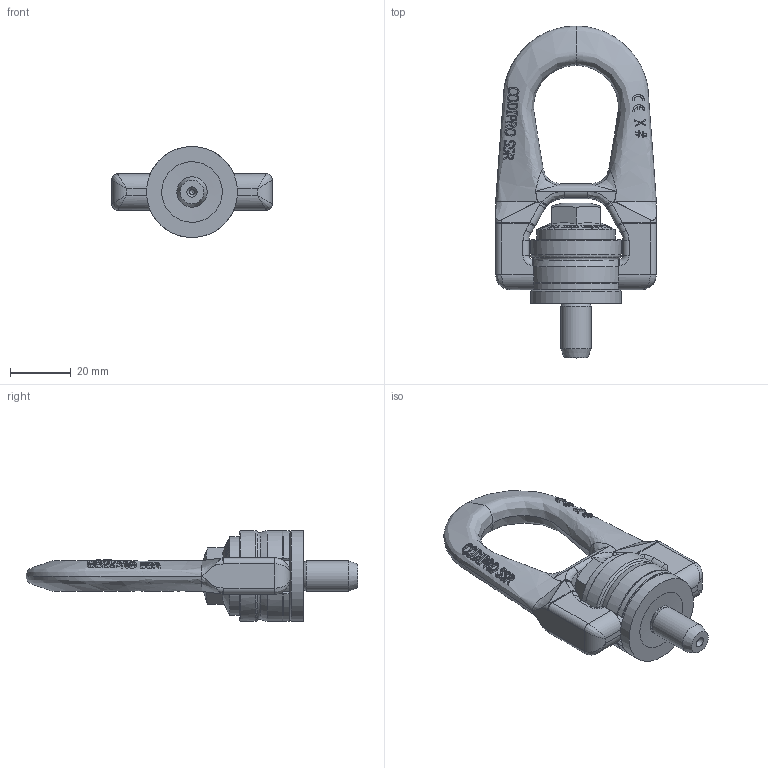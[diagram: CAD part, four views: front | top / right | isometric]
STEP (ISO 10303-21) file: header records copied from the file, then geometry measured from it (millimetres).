
FILE_DESCRIPTION(/* description */ (''),/* implementation_level */ '2;1');
FILE_NAME(/* name */ 'W:\CODIPRO\DOCUMENTS\Plans A NE PAS DIFFUSER !!!\Fichiers STEP\Gamme 2018\Produits NON GRADUP\SS DSR\SS DSR U038.stp',/* time_stamp */ '2017-09-26T13:18:09+02:00',/* author */ ('rklenes'),/* organization */ (''),/* preprocessor_version */ 'ST-DEVELOPER v16.5',/* originating_system */ 'Autodesk Inventor 2017',/* authorisation */ '');
FILE_SCHEMA (('AUTOMOTIVE_DESIGN { 1 0 10303 214 3 1 1 }'));
Products named in the file (5): SS DSR U038; SSM_AF1B-1; SSB_B1B; DRA_U3-8X39; DRE_D1M10A
Assembly tree (4 placements, depth 2):
  SS DSR U038
    SSM_AF1B-1
    SSB_B1B
    DRA_U3-8X39
    DRE_D1M10A
Bounding box: 53 x 109.5 x 30 mm (x, y, z)
Volume: 39380.9 mm3; surface area: 17946.9 mm2
Topology: 4 solids, 4 shells, 835 faces, 2202 edges, 1421 vertices
Faces by surface type: bspline 343, plane 333, cylinder 82, cone 57, torus 19, sphere 1
Full cylindrical faces by diameter (mm): 1.6 x1, 10 x5, 10.2 x1, 14.7 x2, 15 x2, 22 x1, 26 x1, 30 x2
Entity records: 45959 total; most frequent: CARTESIAN_POINT 28078, ORIENTED_EDGE 4300, DIRECTION 2608, EDGE_CURVE 2150, VERTEX_POINT 1412, EDGE_LOOP 930, AXIS2_PLACEMENT_3D 890, FACE_OUTER_BOUND 835
